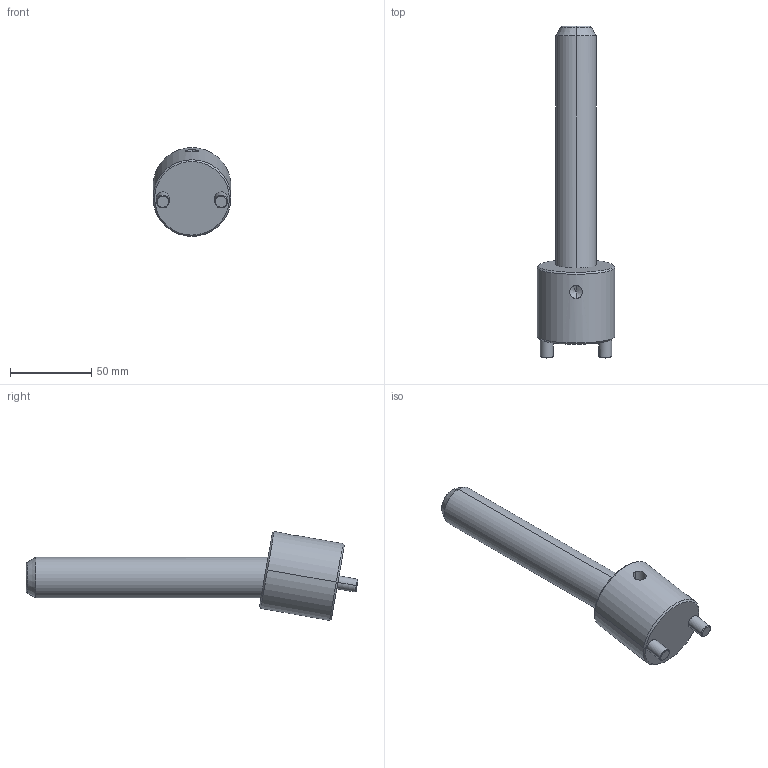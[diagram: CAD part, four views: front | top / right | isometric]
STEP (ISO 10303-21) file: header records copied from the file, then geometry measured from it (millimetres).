
FILE_DESCRIPTION(('CATIA V5 STEP Exchange'),'2;1');
FILE_NAME('C:\Users\Raffaele\Desktop\3D BOLEX\3D FILES CF BOLEX\19-INCLINED ASSEMBLY REF_CI\CI1025150.stp','2019-06-21T13:57:27+00:00',('none'),('none'),'CATIA Version 5 Release 20 GA (IN-10)','CATIA V5 STEP AP203','none');
FILE_SCHEMA(('CONFIG_CONTROL_DESIGN'));
Length unit declared in the file: millimetre
Products named in the file (1): CI1025150
Assembly tree (2 placements, depth 2):
  CI1025150
    #58
    #605
Bounding box: 48 x 204.61 x 54.74 mm (x, y, z)
Volume: 152701.9 mm3; surface area: 29383.7 mm2
Topology: 2 solids, 2 shells, 39 faces, 82 edges, 47 vertices
Faces by surface type: cone 14, cylinder 14, plane 7, torus 4
Entity records: 1533 total; most frequent: CARTESIAN_POINT 674, ORIENTED_EDGE 160, DIRECTION 145, EDGE_CURVE 80, AXIS2_PLACEMENT_3D 72, VERTEX_POINT 47, EDGE_LOOP 43, ADVANCED_FACE 39
